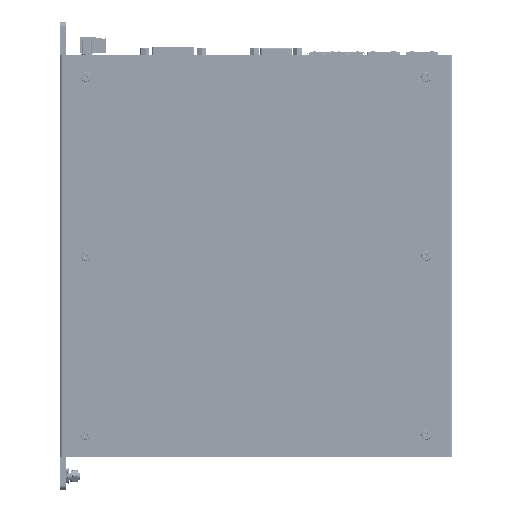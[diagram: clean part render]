
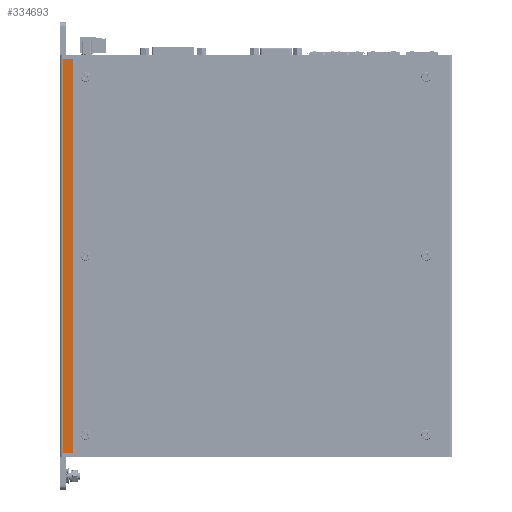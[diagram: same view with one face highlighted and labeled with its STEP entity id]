
A CAD part, front view. The second image highlights one B-rep face of the part: STEP entity #334693.
In plain terms, the highlighted planar face has unit normal (0, -1, 0) as drawn and (-1, 0, 0) by its records, which use the part's own axes.
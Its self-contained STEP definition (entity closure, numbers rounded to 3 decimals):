
#4598 = DIRECTION ( 'NONE',  ( 0., 0., 1. ) ) ;
#32681 = CARTESIAN_POINT ( 'NONE',  ( -45., 113., -7.5 ) ) ;
#52379 = DIRECTION ( 'NONE',  ( 0., 0., 1. ) ) ;
#59078 = VECTOR ( 'NONE', #52379, 1000. ) ;
#66454 = PLANE ( 'NONE',  #334814 ) ;
#68200 = CARTESIAN_POINT ( 'NONE',  ( -45., 113., -2. ) ) ;
#99707 = ORIENTED_EDGE ( 'NONE', *, *, #383016, .T. ) ;
#102887 = ORIENTED_EDGE ( 'NONE', *, *, #168466, .F. ) ;
#103276 = VECTOR ( 'NONE', #422298, 1000. ) ;
#104270 = CARTESIAN_POINT ( 'NONE',  ( -45., -113., -19. ) ) ;
#109395 = VERTEX_POINT ( 'NONE', #372968 ) ;
#145604 = DIRECTION ( 'NONE',  ( -1., 0., 0. ) ) ;
#150687 = DIRECTION ( 'NONE',  ( 0., 0., 1. ) ) ;
#158948 = VERTEX_POINT ( 'NONE', #451209 ) ;
#168466 = EDGE_CURVE ( 'NONE', #158948, #471781, #281888, .T. ) ;
#190176 = EDGE_CURVE ( 'NONE', #269375, #158948, #210753, .T. ) ;
#210753 = LINE ( 'NONE', #317586, #450448 ) ;
#253246 = ORIENTED_EDGE ( 'NONE', *, *, #190176, .F. ) ;
#260558 = FACE_OUTER_BOUND ( 'NONE', #318069, .T. ) ;
#268173 = LINE ( 'NONE', #492313, #59078 ) ;
#269375 = VERTEX_POINT ( 'NONE', #32681 ) ;
#278257 = CARTESIAN_POINT ( 'NONE',  ( -45., -113., -2. ) ) ;
#281888 = LINE ( 'NONE', #68200, #103276 ) ;
#286889 = VECTOR ( 'NONE', #472910, 1000. ) ;
#317586 = CARTESIAN_POINT ( 'NONE',  ( -45., 113., -7.5 ) ) ;
#318069 = EDGE_LOOP ( 'NONE', ( #253246, #403240, #99707, #102887 ) ) ;
#334693 = ADVANCED_FACE ( 'NONE', ( #260558 ), #66454, .T. ) ;
#334814 = AXIS2_PLACEMENT_3D ( 'NONE', #104270, #145604, #150687 ) ;
#372968 = CARTESIAN_POINT ( 'NONE',  ( -45., -113., -7.5 ) ) ;
#383016 = EDGE_CURVE ( 'NONE', #109395, #471781, #268173, .T. ) ;
#391554 = LINE ( 'NONE', #433203, #286889 ) ;
#403240 = ORIENTED_EDGE ( 'NONE', *, *, #509191, .F. ) ;
#422298 = DIRECTION ( 'NONE',  ( 0., -1., 0. ) ) ;
#433203 = CARTESIAN_POINT ( 'NONE',  ( -45., -113., -7.5 ) ) ;
#450448 = VECTOR ( 'NONE', #4598, 1000. ) ;
#451209 = CARTESIAN_POINT ( 'NONE',  ( -45., 113., -2. ) ) ;
#471781 = VERTEX_POINT ( 'NONE', #278257 ) ;
#472910 = DIRECTION ( 'NONE',  ( 0., 1., 0. ) ) ;
#492313 = CARTESIAN_POINT ( 'NONE',  ( -45., -113., -7.5 ) ) ;
#509191 = EDGE_CURVE ( 'NONE', #109395, #269375, #391554, .T. ) ;
